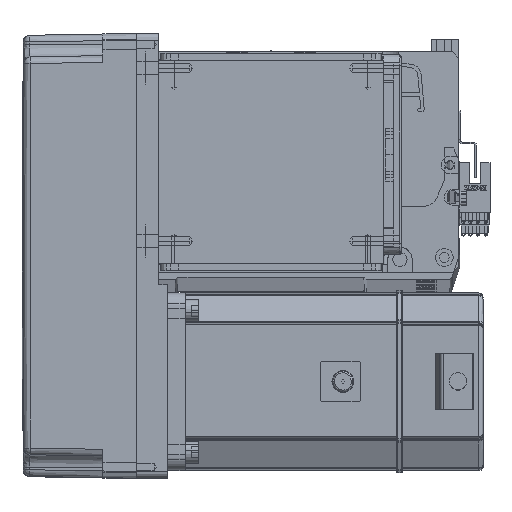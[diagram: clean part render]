
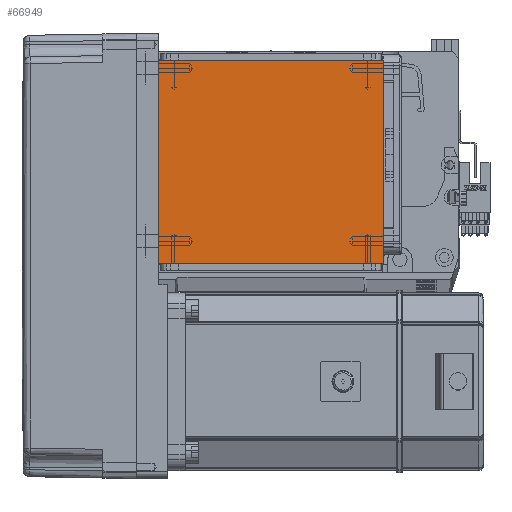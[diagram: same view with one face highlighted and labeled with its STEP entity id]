
A CAD part, top view. The second image highlights one B-rep face of the part: STEP entity #66949.
In plain terms, the highlighted planar face has unit normal (0, 0, 1).
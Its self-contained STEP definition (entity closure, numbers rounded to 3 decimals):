
#3357 = VERTEX_POINT ( 'NONE', #37158 ) ;
#4676 = PLANE ( 'NONE',  #27431 ) ;
#5878 = VECTOR ( 'NONE', #35798, 1000. ) ;
#6012 = CARTESIAN_POINT ( 'NONE',  ( 50.5, 111.5, 115. ) ) ;
#9803 = LINE ( 'NONE', #58667, #19638 ) ;
#12997 = CARTESIAN_POINT ( 'NONE',  ( -50.5, 122., 115. ) ) ;
#15409 = CARTESIAN_POINT ( 'NONE',  ( -50.5, 20., 115. ) ) ;
#15992 = VECTOR ( 'NONE', #27955, 1000. ) ;
#19638 = VECTOR ( 'NONE', #63952, 1000. ) ;
#20168 = CARTESIAN_POINT ( 'NONE',  ( -70.004, 20., 115. ) ) ;
#20809 = CARTESIAN_POINT ( 'NONE',  ( -70.004, 111.5, 115. ) ) ;
#21112 = EDGE_CURVE ( 'NONE', #3357, #49037, #9803, .T. ) ;
#21246 = DIRECTION ( 'NONE',  ( 1., 0., 0. ) ) ;
#26314 = DIRECTION ( 'NONE',  ( 1., 0., 0. ) ) ;
#26368 = ORIENTED_EDGE ( 'NONE', *, *, #66437, .F. ) ;
#27431 = AXIS2_PLACEMENT_3D ( 'NONE', #30869, #67720, #26314 ) ;
#27955 = DIRECTION ( 'NONE',  ( 0., -1., 0. ) ) ;
#28495 = EDGE_CURVE ( 'NONE', #38222, #49037, #43561, .T. ) ;
#28806 = EDGE_LOOP ( 'NONE', ( #55778, #34963, #26368, #63258 ) ) ;
#30869 = CARTESIAN_POINT ( 'NONE',  ( 0., 0., 115. ) ) ;
#33332 = CARTESIAN_POINT ( 'NONE',  ( -50.5, 111.5, 115. ) ) ;
#34963 = ORIENTED_EDGE ( 'NONE', *, *, #64842, .T. ) ;
#35798 = DIRECTION ( 'NONE',  ( -1., 0., 0. ) ) ;
#37158 = CARTESIAN_POINT ( 'NONE',  ( 50.5, 20., 115. ) ) ;
#38222 = VERTEX_POINT ( 'NONE', #33332 ) ;
#39655 = VERTEX_POINT ( 'NONE', #15409 ) ;
#42104 = LINE ( 'NONE', #20168, #5878 ) ;
#43561 = LINE ( 'NONE', #20809, #45206 ) ;
#45206 = VECTOR ( 'NONE', #21246, 1000. ) ;
#49037 = VERTEX_POINT ( 'NONE', #6012 ) ;
#51325 = LINE ( 'NONE', #12997, #15992 ) ;
#55778 = ORIENTED_EDGE ( 'NONE', *, *, #28495, .F. ) ;
#58667 = CARTESIAN_POINT ( 'NONE',  ( 50.5, 122., 115. ) ) ;
#63258 = ORIENTED_EDGE ( 'NONE', *, *, #21112, .T. ) ;
#63952 = DIRECTION ( 'NONE',  ( 0., 1., 0. ) ) ;
#64842 = EDGE_CURVE ( 'NONE', #38222, #39655, #51325, .T. ) ;
#65976 = FACE_OUTER_BOUND ( 'NONE', #28806, .T. ) ;
#66437 = EDGE_CURVE ( 'NONE', #3357, #39655, #42104, .T. ) ;
#66949 = ADVANCED_FACE ( 'NONE', ( #65976 ), #4676, .T. ) ;
#67720 = DIRECTION ( 'NONE',  ( 0., 0., 1. ) ) ;
